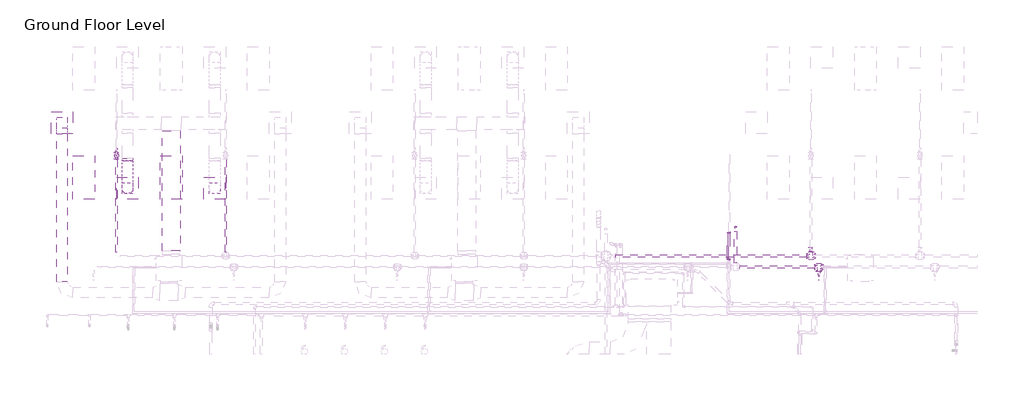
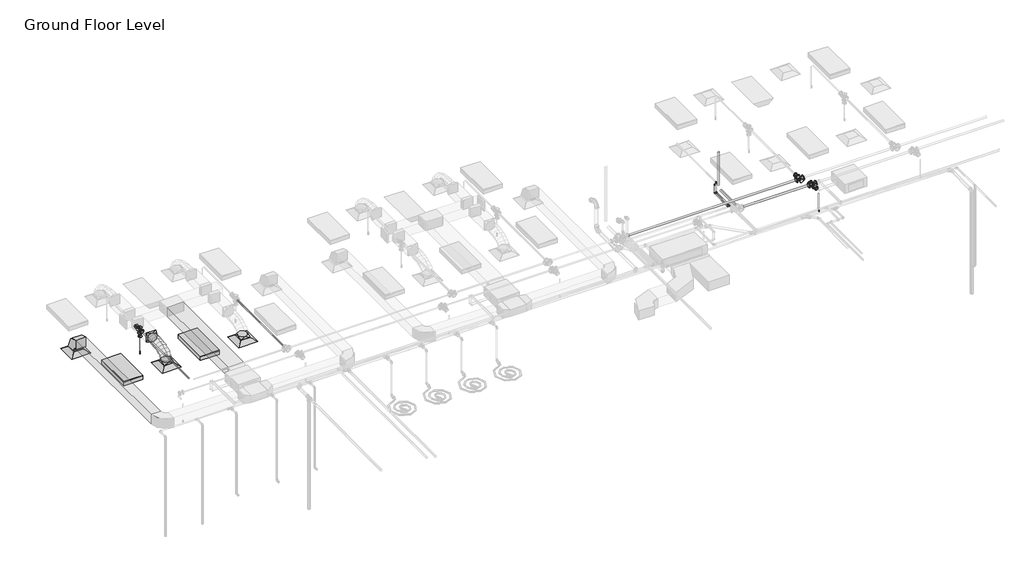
# One storey, part 54 of 73: 14 pipe fittings, 14 pipe segments, 4 duct fittings, 4 duct segments, 3 air terminals, 2 fire suppression terminals, 2 light fixtures.
"""IFC4 building model written with IfcOpenShell, lengths in millimetres."""

from ifc_helpers import new_model, si_unit, point, frame, frame_2d, origin, place, context, project, spatial, polyline, circle_curve, ellipse_curve, trimmed, segment, composite_curve, outline, extrude, transform, mapped, element, save
from ifc_brep_helpers import plane_surface, cylinder_surface, advanced_brep
from components import m_return_diffuser_600_x_600_face_300_x_300_connection_ff221211, m_rectangular_elbow_radius_1_w_618da153, m_rectangular_to_round_transition_angle_45_degree_641efff0, m_sprinkler_dry_pendent_hosted_15_mm_dry_pendent_9bda8e11, m_sprinkler_pendent_15_mm_pendent_06fcbd8e, m_troffer_light_parabolic_rectangular1_0600x1200mm_4_lamp_86473d4a, m_elbow_generic_standard_738589b0, m_elbow_generic_standard_463efa77, m_reducer_flanged_cs_class_150_standard_d42b2106, m_reducer_flanged_cs_class_150_standard_a7631c35, m_reducer_flanged_cs_class_150_standard_55262df0, m_tee_round_base_flanged_cs_class_150_standard_dd767e04, m_tee_round_base_flanged_cs_class_150_standard_7e5987a1

model = new_model("IFC4")

# Units and contexts
model_context = context("Model", 3, world=origin())
ifc_project = project(units=[si_unit("LENGTHUNIT", "METRE", prefix="MILLI")], contexts=[model_context])

# Site, building, storey
site = spatial("IfcSite", under=ifc_project)
building = spatial("IfcBuilding", under=site)
storey = spatial("IfcBuildingStorey", under=building, Name="Ground Floor Level", Elevation=900.0)

# Air terminals
placement = place(None, origin())
m_return_diffuser_600_x_600_face_300_x_300_connection_shape = m_return_diffuser_600_x_600_face_300_x_300_connection_ff221211(model_context)
element("IfcAirTerminal", 1, ObjectType="M_Return Diffuser : 600 x 600 Face 300 x 300 Connection", at=placement, inside=storey, context=model_context, shape_type="MappedRepresentation", body=[
    mapped(m_return_diffuser_600_x_600_face_300_x_300_connection_shape, transform((-20937.2327605, 18735.2153534, 3650.0), x_axis=(1.0, 0.0, 0.0), y_axis=(0.0, 1.0, 0.0), z_axis=(0.0, 0.0, 1.0))),
])
element("IfcAirTerminal", 2, ObjectType="M_Supply Diffuser : 600 x 600 Face 300 x 300 Connection", at=placement, inside=storey, context=model_context, shape_type="MappedRepresentation", body=[
    mapped(m_return_diffuser_600_x_600_face_300_x_300_connection_shape, transform((-19137.2327605, 16935.2153534, 3650.0), x_axis=(1.0, 0.0, 0.0), y_axis=(0.0, 1.0, 0.0), z_axis=(0.0, 0.0, 1.0))),
])
element("IfcAirTerminal", 3, ObjectType="M_Supply Diffuser : 600 x 600 Face 300 x 300 Connection", at=placement, inside=storey, context=model_context, shape_type="MappedRepresentation", body=[
    mapped(m_return_diffuser_600_x_600_face_300_x_300_connection_shape, transform((-16737.2327605, 16935.2153534, 3650.0), x_axis=(1.0, 0.0, 0.0), y_axis=(0.0, 1.0, 0.0), z_axis=(0.0, 0.0, 1.0))),
])

# Duct fittings
m_rectangular_elbow_radius_1_w_shape = m_rectangular_elbow_radius_1_w_618da153(model_context)
element("IfcDuctFitting", 4, ObjectType="M_Rectangular Elbow - Radius : 1 W", at=placement, inside=storey, context=model_context, shape_type="MappedRepresentation", body=[
    mapped(m_rectangular_elbow_radius_1_w_shape, transform((-20937.2327605, 18735.2153534, 4075.2881511), x_axis=(0.0, 0.0, 1.0), y_axis=(0.0, -1.0, 0.0), z_axis=(1.0, 0.0, 0.0))),
])
m_rectangular_to_round_transition_angle_45_degree_shape = m_rectangular_to_round_transition_angle_45_degree_641efff0(model_context)
element("IfcDuctFitting", 5, ObjectType="M_Rectangular to Round Transition - Angle : 45 Degree", at=placement, inside=storey, context=model_context, shape_type="MappedRepresentation", body=[
    mapped(m_rectangular_to_round_transition_angle_45_degree_shape, transform((-16737.2327605, 16935.2153534, 3751.6), x_axis=(0.0, 0.0, 1.0), y_axis=(-1.0, 0.0, 0.0), z_axis=(0.0, -1.0, 0.0))),
])
element("IfcDuctFitting", 6, ObjectType="M_Rectangular to Round Transition - Angle : 45 Degree", at=placement, inside=storey, context=model_context, shape_type="MappedRepresentation", body=[
    mapped(m_rectangular_to_round_transition_angle_45_degree_shape, transform((-19137.2327605, 16935.2153534, 3751.6), x_axis=(0.0, 0.0, 1.0), y_axis=(-1.0, 0.0, 0.0), z_axis=(0.0, -1.0, 0.0))),
])
element("IfcDuctFitting", 7, ObjectType="M_Rectangular to Round Transition - Angle : 45 Degree", at=placement, inside=storey, context=model_context, shape_type="MappedRepresentation", body=[
    mapped(m_rectangular_to_round_transition_angle_45_degree_shape, transform((-19137.2327605, 17762.5518775, 4099.9994072), x_axis=(0.0, -1.0, 0.0), y_axis=(1.0, 0.0, 0.0), z_axis=(0.0, 0.0, 1.0))),
])

# Duct segments
element("IfcDuctSegment", 8, ObjectType="Flex - Round", at=placement, inside=storey, context=model_context, shape_type="AdvancedBrep", body=[
    advanced_brep(
    [(-18987.2327605, 16935.2153534, 3826.6), (-19137.2327605, 16785.2153534, 3826.6), (-19287.2327605, 16935.2153534, 3826.6), (-19137.2327605, 17085.2153534, 3826.6), (-18987.2327605, 16935.2153534, 3857.9377363), (-19137.2327605, 16785.2153534, 3883.580989), (-19287.2327605, 16935.2153534, 3857.9377363), (-19137.2327605, 17085.2153534, 3832.2944836), (-18987.2327605, 16952.2313024, 3906.2505836), (-19137.2327605, 16818.4933608, 3978.0661859), (-19287.2327605, 16952.2313024, 3906.2505836), (-19137.2327605, 17085.969244, 3834.4349814), (-18987.2327605, 16999.4152275, 3968.711286), (-19137.2327605, 16895.2094297, 4079.6206779), (-19287.2327605, 16999.4152275, 3968.711286), (-19137.2327605, 17103.6210253, 3857.8018941), (-18987.2327605, 17070.9712459, 4016.0699627), (-19137.2327605, 17002.0373501, 4150.3237308), (-19287.2327605, 17070.9712459, 4016.0699627), (-19137.2327605, 17139.9051416, 3881.8161947), (-18987.2327605, 17161.1034747, 4050.4144697), (-19137.2327605, 17117.5428863, 4194.3366298), (-19287.2327605, 17161.1034747, 4050.4144697), (-19137.2327605, 17204.6640631, 3906.4923095), (-18987.2327605, 17264.0160312, 4073.8326625), (-19137.2327605, 17237.4552729, 4221.6232067), (-19287.2327605, 17264.0160312, 4073.8326625), (-19137.2327605, 17290.5767896, 3926.0421182), (-18987.2327605, 17373.9130326, 4088.4123969), (-19137.2327605, 17358.7622742, 4237.7166746), (-19287.2327605, 17373.9130326, 4088.4123969), (-19137.2327605, 17389.0637909, 3939.1081192), (-18987.2327605, 17484.9985959, 4096.2415287), (-19137.2327605, 17477.4933798, 4246.0846519), (-19287.2327605, 17484.9985959, 4096.2415287), (-19137.2327605, 17492.5038121, 3946.3984054), (-18987.2327605, 17591.4768385, 4099.4079135), (-19137.2327605, 17588.7854112, 4249.3941863), (-19287.2327605, 17591.4768385, 4099.4079135), (-19137.2327605, 17594.1682658, 3949.4216408), (-18987.2327605, 17687.5518775, 4099.9994072), (-19137.2327605, 17688.475347, 3950.0022499), (-19287.2327605, 17687.5518775, 4099.9994072), (-19137.2327605, 17686.6284079, 4249.9965645)],
    [
        (0, 1, circle_curve(frame((-19137.2327605, 16935.2153534, 3826.6), z_axis=(0.0, 0.0, -1.0), x_axis=(1.0, 0.0, 0.0)), 150.0)),
        (1, 2, circle_curve(frame((-19137.2327605, 16935.2153534, 3826.6), z_axis=(0.0, 0.0, -1.0), x_axis=(1.0, 0.0, 0.0)), 150.0)),
        (2, 3, circle_curve(frame((-19137.2327605, 16935.2153534, 3826.6), z_axis=(0.0, 0.0, -1.0), x_axis=(1.0, 0.0, 0.0)), 150.0)),
        (3, 0, circle_curve(frame((-19137.2327605, 16935.2153534, 3826.6), z_axis=(0.0, 0.0, -1.0), x_axis=(1.0, 0.0, 0.0)), 150.0)),
        (0, 4),
        (4, 5, ellipse_curve(frame((-19137.2327605, 16935.2153534, 3857.9377363), z_axis=(0.0, -0.1685103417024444, -0.9856998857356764), x_axis=(0.0, 0.9856998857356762, -0.1685103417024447)), 152.1761361, 150.0)),
        (5, 1),
        (5, 6, ellipse_curve(frame((-19137.2327605, 16935.2153534, 3857.9377363), z_axis=(0.0, -0.1685103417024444, -0.9856998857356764), x_axis=(0.0, 0.9856998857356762, -0.1685103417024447)), 152.1761361, 150.0)),
        (6, 2),
        (6, 7, ellipse_curve(frame((-19137.2327605, 16935.2153534, 3857.9377363), z_axis=(0.0, -0.1685103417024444, -0.9856998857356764), x_axis=(0.0, 0.9856998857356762, -0.1685103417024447)), 152.1761361, 150.0)),
        (7, 3),
        (7, 4, ellipse_curve(frame((-19137.2327605, 16935.2153534, 3857.9377363), z_axis=(0.0, -0.1685103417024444, -0.9856998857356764), x_axis=(0.0, 0.9856998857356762, -0.1685103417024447)), 152.1761361, 150.0)),
        (4, 8),
        (8, 9, ellipse_curve(frame((-19137.2327605, 16952.2313024, 3906.2505836), z_axis=(0.0, -0.4730927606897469, -0.8810126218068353), x_axis=(0.0, 0.881012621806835, -0.4730927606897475)), 151.8002561, 150.0)),
        (9, 5),
        (9, 10, ellipse_curve(frame((-19137.2327605, 16952.2313024, 3906.2505836), z_axis=(0.0, -0.4730927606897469, -0.8810126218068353), x_axis=(0.0, 0.881012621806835, -0.4730927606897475)), 151.8002561, 150.0)),
        (10, 6),
        (10, 11, ellipse_curve(frame((-19137.2327605, 16952.2313024, 3906.2505836), z_axis=(0.0, -0.4730927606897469, -0.8810126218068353), x_axis=(0.0, 0.881012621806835, -0.4730927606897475)), 151.8002561, 150.0)),
        (11, 7),
        (11, 8, ellipse_curve(frame((-19137.2327605, 16952.2313024, 3906.2505836), z_axis=(0.0, -0.4730927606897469, -0.8810126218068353), x_axis=(0.0, 0.881012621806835, -0.4730927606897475)), 151.8002561, 150.0)),
        (8, 12),
        (12, 13, ellipse_curve(frame((-19137.2327605, 16999.4152275, 3968.711286), z_axis=(0.0, -0.7287884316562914, -0.6847389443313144), x_axis=(0.0, 0.6847389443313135, -0.7287884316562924)), 152.1832498, 150.0)),
        (13, 9),
        (13, 14, ellipse_curve(frame((-19137.2327605, 16999.4152275, 3968.711286), z_axis=(0.0, -0.7287884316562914, -0.6847389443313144), x_axis=(0.0, 0.6847389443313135, -0.7287884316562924)), 152.1832498, 150.0)),
        (14, 10),
        (14, 15, ellipse_curve(frame((-19137.2327605, 16999.4152275, 3968.711286), z_axis=(0.0, -0.7287884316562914, -0.6847389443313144), x_axis=(0.0, 0.6847389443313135, -0.7287884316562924)), 152.1832498, 150.0)),
        (15, 11),
        (15, 12, ellipse_curve(frame((-19137.2327605, 16999.4152275, 3968.711286), z_axis=(0.0, -0.7287884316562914, -0.6847389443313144), x_axis=(0.0, 0.6847389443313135, -0.7287884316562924)), 152.1832498, 150.0)),
        (12, 16),
        (16, 17, ellipse_curve(frame((-19137.2327605, 17070.9712459, 4016.0699627), z_axis=(0.0, -0.8895864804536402, -0.45676678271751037), x_axis=(0.0, 0.45676678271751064, -0.88958648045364)), 150.9170508, 150.0)),
        (17, 13),
        (17, 18, ellipse_curve(frame((-19137.2327605, 17070.9712459, 4016.0699627), z_axis=(0.0, -0.8895864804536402, -0.45676678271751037), x_axis=(0.0, 0.45676678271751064, -0.88958648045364)), 150.9170508, 150.0)),
        (18, 14),
        (18, 19, ellipse_curve(frame((-19137.2327605, 17070.9712459, 4016.0699627), z_axis=(0.0, -0.8895864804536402, -0.45676678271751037), x_axis=(0.0, 0.45676678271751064, -0.88958648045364)), 150.9170508, 150.0)),
        (19, 15),
        (19, 16, ellipse_curve(frame((-19137.2327605, 17070.9712459, 4016.0699627), z_axis=(0.0, -0.8895864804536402, -0.45676678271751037), x_axis=(0.0, 0.45676678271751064, -0.88958648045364)), 150.9170508, 150.0)),
        (16, 20),
        (20, 21, ellipse_curve(frame((-19137.2327605, 17161.1034747, 4050.4144697), z_axis=(0.0, -0.9571206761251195, -0.2896895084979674), x_axis=(0.0, 0.28968950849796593, -0.9571206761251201)), 150.3699207, 150.0)),
        (21, 17),
        (21, 22, ellipse_curve(frame((-19137.2327605, 17161.1034747, 4050.4144697), z_axis=(0.0, -0.9571206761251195, -0.2896895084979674), x_axis=(0.0, 0.28968950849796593, -0.9571206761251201)), 150.3699207, 150.0)),
        (22, 18),
        (22, 23, ellipse_curve(frame((-19137.2327605, 17161.1034747, 4050.4144697), z_axis=(0.0, -0.9571206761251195, -0.2896895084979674), x_axis=(0.0, 0.28968950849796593, -0.9571206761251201)), 150.3699207, 150.0)),
        (23, 19),
        (23, 20, ellipse_curve(frame((-19137.2327605, 17161.1034747, 4050.4144697), z_axis=(0.0, -0.9571206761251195, -0.2896895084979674), x_axis=(0.0, 0.28968950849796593, -0.9571206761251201)), 150.3699207, 150.0)),
        (20, 24),
        (24, 25, ellipse_curve(frame((-19137.2327605, 17264.0160312, 4073.8326625), z_axis=(0.0, -0.984231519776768, -0.17688503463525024), x_axis=(0.0, 0.17688503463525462, -0.984231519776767)), 150.1583126, 150.0)),
        (25, 21),
        (25, 26, ellipse_curve(frame((-19137.2327605, 17264.0160312, 4073.8326625), z_axis=(0.0, -0.984231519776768, -0.17688503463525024), x_axis=(0.0, 0.17688503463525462, -0.984231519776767)), 150.1583126, 150.0)),
        (26, 22),
        (26, 27, ellipse_curve(frame((-19137.2327605, 17264.0160312, 4073.8326625), z_axis=(0.0, -0.984231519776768, -0.17688503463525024), x_axis=(0.0, 0.17688503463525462, -0.984231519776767)), 150.1583126, 150.0)),
        (27, 23),
        (27, 24, ellipse_curve(frame((-19137.2327605, 17264.0160312, 4073.8326625), z_axis=(0.0, -0.984231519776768, -0.17688503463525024), x_axis=(0.0, 0.17688503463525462, -0.984231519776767)), 150.1583126, 150.0)),
        (24, 28),
        (28, 29, ellipse_curve(frame((-19137.2327605, 17373.9130326, 4088.4123969), z_axis=(0.0, -0.9948907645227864, -0.1009572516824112), x_axis=(0.0, 0.10095725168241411, -0.9948907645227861)), 150.0710259, 150.0)),
        (29, 25),
        (29, 30, ellipse_curve(frame((-19137.2327605, 17373.9130326, 4088.4123969), z_axis=(0.0, -0.9948907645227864, -0.1009572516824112), x_axis=(0.0, 0.10095725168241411, -0.9948907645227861)), 150.0710259, 150.0)),
        (30, 26),
        (30, 31, ellipse_curve(frame((-19137.2327605, 17373.9130326, 4088.4123969), z_axis=(0.0, -0.9948907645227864, -0.1009572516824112), x_axis=(0.0, 0.10095725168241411, -0.9948907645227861)), 150.0710259, 150.0)),
        (31, 27),
        (31, 28, ellipse_curve(frame((-19137.2327605, 17373.9130326, 4088.4123969), z_axis=(0.0, -0.9948907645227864, -0.1009572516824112), x_axis=(0.0, 0.10095725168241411, -0.9948907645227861)), 150.0710259, 150.0)),
        (28, 32),
        (32, 33, ellipse_curve(frame((-19137.2327605, 17484.9985959, 4096.2415287), z_axis=(0.0, -0.9987479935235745, -0.05002444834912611), x_axis=(0.0, 0.050024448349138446, -0.9987479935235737)), 150.030963, 150.0)),
        (33, 29),
        (33, 34, ellipse_curve(frame((-19137.2327605, 17484.9985959, 4096.2415287), z_axis=(0.0, -0.9987479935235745, -0.05002444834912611), x_axis=(0.0, 0.050024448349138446, -0.9987479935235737)), 150.030963, 150.0)),
        (34, 30),
        (34, 35, ellipse_curve(frame((-19137.2327605, 17484.9985959, 4096.2415287), z_axis=(0.0, -0.9987479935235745, -0.05002444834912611), x_axis=(0.0, 0.050024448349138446, -0.9987479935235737)), 150.030963, 150.0)),
        (35, 31),
        (35, 32, ellipse_curve(frame((-19137.2327605, 17484.9985959, 4096.2415287), z_axis=(0.0, -0.9987479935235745, -0.05002444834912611), x_axis=(0.0, 0.050024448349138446, -0.9987479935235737)), 150.030963, 150.0)),
        (32, 36),
        (36, 37, ellipse_curve(frame((-19137.2327605, 17591.4768385, 4099.4079135), z_axis=(0.0, -0.9998390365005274, -0.017941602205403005), x_axis=(0.0, 0.017941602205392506, -0.9998390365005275)), 150.0104189, 150.0)),
        (37, 33),
        (37, 38, ellipse_curve(frame((-19137.2327605, 17591.4768385, 4099.4079135), z_axis=(0.0, -0.9998390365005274, -0.017941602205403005), x_axis=(0.0, 0.017941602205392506, -0.9998390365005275)), 150.0104189, 150.0)),
        (38, 34),
        (38, 39, ellipse_curve(frame((-19137.2327605, 17591.4768385, 4099.4079135), z_axis=(0.0, -0.9998390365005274, -0.017941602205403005), x_axis=(0.0, 0.017941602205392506, -0.9998390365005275)), 150.0104189, 150.0)),
        (39, 35),
        (39, 36, ellipse_curve(frame((-19137.2327605, 17591.4768385, 4099.4079135), z_axis=(0.0, -0.9998390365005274, -0.017941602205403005), x_axis=(0.0, 0.017941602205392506, -0.9998390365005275)), 150.0104189, 150.0)),
        (40, 41, circle_curve(frame((-19137.2327605, 17687.5518775, 4099.9994072), z_axis=(0.0, 0.9999810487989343, 0.006156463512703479), x_axis=(1.0, 0.0, 0.0)), 150.0)),
        (41, 42, circle_curve(frame((-19137.2327605, 17687.5518775, 4099.9994072), z_axis=(0.0, 0.9999810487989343, 0.006156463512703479), x_axis=(1.0, 0.0, 0.0)), 150.0)),
        (42, 43, circle_curve(frame((-19137.2327605, 17687.5518775, 4099.9994072), z_axis=(0.0, 0.9999810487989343, 0.006156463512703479), x_axis=(1.0, 0.0, 0.0)), 150.0)),
        (43, 40, circle_curve(frame((-19137.2327605, 17687.5518775, 4099.9994072), z_axis=(0.0, 0.9999810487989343, 0.006156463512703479), x_axis=(1.0, 0.0, 0.0)), 150.0)),
        (36, 40),
        (43, 37),
        (42, 38),
        (41, 39),
    ],
    [
        plane_surface(frame((-19137.2327605, 16785.2153534, 3826.6), z_axis=(0.0, 0.0, -1.0), x_axis=(1.0, 0.0, 0.0))),
        cylinder_surface(frame((-19137.2327605, 16935.2153534, 3826.6), z_axis=(0.0, 0.0, -1.0), x_axis=(1.0, 0.0, 0.0)), 150.0),
        cylinder_surface(frame((-19137.2327605, 16935.2153534, 3857.9377363), z_axis=(0.0, -0.33220124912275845, -0.9432085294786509), x_axis=(1.0, 0.0, 0.0)), 150.0),
        cylinder_surface(frame((-19137.2327605, 16952.2313024, 3906.2505836), z_axis=(0.0, -0.6027631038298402, -0.7979201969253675), x_axis=(1.0, 0.0, 0.0)), 150.0),
        cylinder_surface(frame((-19137.2327605, 16999.4152275, 3968.711286), z_axis=(0.0, -0.833903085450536, -0.5519109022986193), x_axis=(1.0, 0.0, 0.0)), 150.0),
        cylinder_surface(frame((-19137.2327605, 17070.9712459, 4016.0699627), z_axis=(0.0, -0.9344586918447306, -0.3560715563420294), x_axis=(1.0, 0.0, 0.0)), 150.0),
        cylinder_surface(frame((-19137.2327605, 17161.1034747, 4050.4144697), z_axis=(0.0, -0.9750734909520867, -0.22188214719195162), x_axis=(1.0, 0.0, 0.0)), 150.0),
        cylinder_surface(frame((-19137.2327605, 17264.0160312, 4073.8326625), z_axis=(0.0, -0.9913141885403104, -0.13151494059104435), x_axis=(1.0, 0.0, 0.0)), 150.0),
        cylinder_surface(frame((-19137.2327605, 17373.9130326, 4088.4123969), z_axis=(0.0, -0.9975256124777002, -0.07030400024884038), x_axis=(1.0, 0.0, 0.0)), 150.0),
        cylinder_surface(frame((-19137.2327605, 17484.9985959, 4096.2415287), z_axis=(0.0, -0.9995581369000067, -0.029724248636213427), x_axis=(1.0, 0.0, 0.0)), 150.0),
        plane_surface(frame((-19137.2327605, 17686.6284079, 4249.9965645), z_axis=(0.0, 0.9999810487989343, 0.006156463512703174), x_axis=(1.0, 0.0, 0.0))),
        cylinder_surface(frame((-19137.2327605, 17591.4768385, 4099.4079135), z_axis=(0.0, -0.9999810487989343, -0.006156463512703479), x_axis=(1.0, 0.0, 0.0)), 150.0),
    ],
    [
        (0, [[1, 2, 3, 4]]),
        (1, [[-1, 5, 6, 7]]),
        (1, [[-2, -7, 8, 9]]),
        (1, [[-3, -9, 10, 11]]),
        (1, [[-4, -11, 12, -5]]),
        (2, [[-6, 13, 14, 15]]),
        (2, [[-8, -15, 16, 17]]),
        (2, [[-10, -17, 18, 19]]),
        (2, [[-12, -19, 20, -13]]),
        (3, [[-14, 21, 22, 23]]),
        (3, [[-16, -23, 24, 25]]),
        (3, [[-18, -25, 26, 27]]),
        (3, [[-20, -27, 28, -21]]),
        (4, [[-22, 29, 30, 31]]),
        (4, [[-24, -31, 32, 33]]),
        (4, [[-26, -33, 34, 35]]),
        (4, [[-28, -35, 36, -29]]),
        (5, [[-30, 37, 38, 39]]),
        (5, [[-32, -39, 40, 41]]),
        (5, [[-34, -41, 42, 43]]),
        (5, [[-36, -43, 44, -37]]),
        (6, [[-38, 45, 46, 47]]),
        (6, [[-40, -47, 48, 49]]),
        (6, [[-42, -49, 50, 51]]),
        (6, [[-44, -51, 52, -45]]),
        (7, [[-46, 53, 54, 55]]),
        (7, [[-48, -55, 56, 57]]),
        (7, [[-50, -57, 58, 59]]),
        (7, [[-52, -59, 60, -53]]),
        (8, [[-54, 61, 62, 63]]),
        (8, [[-56, -63, 64, 65]]),
        (8, [[-58, -65, 66, 67]]),
        (8, [[-60, -67, 68, -61]]),
        (9, [[-62, 69, 70, 71]]),
        (9, [[-64, -71, 72, 73]]),
        (9, [[-66, -73, 74, 75]]),
        (9, [[-68, -75, 76, -69]]),
        (10, [[77, 78, 79, 80]]),
        (11, [[-70, 81, -80, 82]]),
        (11, [[-72, -82, -79, 83]]),
        (11, [[-74, -83, -78, 84]]),
        (11, [[-76, -84, -77, -81]]),
    ],
),
])
element("IfcDuctSegment", 9, ObjectType="Radius Elbows / Taps", at=placement, inside=storey, context=model_context, shape_type="SweptSolid", body=[
    extrude(outline(polyline([(-17683.7327605, 15224.0945822), (-18183.7327605, 15224.0945822), (-18183.7327605, 18524.6783949), (-17683.7327605, 18524.6783949), (-17683.7327605, 15224.0945822)])), frame((0.0, 0.0, 3950.0008948), z_axis=(0.0, 0.0, 1.0), x_axis=(1.0, 0.0, 0.0)), (0.0, 0.0, 1.0), 300.0),
])
element("IfcDuctSegment", 10, ObjectType="Radius Elbows / Taps", at=placement, inside=storey, context=model_context, shape_type="SweptSolid", body=[
    extrude(outline(polyline([(-20787.2327605, 14369.8153534), (-21087.2327605, 14369.8153534), (-21087.2327605, 18435.2153534), (-20787.2327605, 18435.2153534), (-20787.2327605, 14369.8153534)])), frame((0.0, 0.0, 3925.2881511), z_axis=(0.0, 0.0, 1.0), x_axis=(1.0, 0.0, 0.0)), (0.0, 0.0, 1.0), 300.0),
])
element("IfcDuctSegment", 11, ObjectType="Radius Elbows / Taps", at=placement, inside=storey, context=model_context, shape_type="SweptSolid", body=[
    extrude(outline(polyline([(-20787.2327605, 18585.2153534), (-21087.2327605, 18585.2153534), (-21087.2327605, 18885.2153534), (-20787.2327605, 18885.2153534), (-20787.2327605, 18585.2153534)])), frame((0.0, 0.0, 3751.6), z_axis=(0.0, 0.0, 1.0), x_axis=(1.0, 0.0, 0.0)), (0.0, 0.0, 1.0), 23.6881511),
])

# Fire suppression terminals
m_sprinkler_dry_pendent_hosted_15_mm_dry_pendent_shape = m_sprinkler_dry_pendent_hosted_15_mm_dry_pendent_9bda8e11(model_context)
element("IfcFireSuppressionTerminal", 12, ObjectType="M_Sprinkler - Dry - Pendent - Hosted : 15 mm Dry Pendent", at=placement, inside=storey, context=model_context, shape_type="MappedRepresentation", body=[
    mapped(m_sprinkler_dry_pendent_hosted_15_mm_dry_pendent_shape, transform((-19437.2327605, 17835.2153534, 3650.0), x_axis=(1.0, 0.0, 0.0), y_axis=(0.0, -1.0, 0.0), z_axis=(0.0, 0.0, -1.0))),
])
m_sprinkler_pendent_15_mm_pendent_shape = m_sprinkler_pendent_15_mm_pendent_06fcbd8e(model_context)
element("IfcFireSuppressionTerminal", 13, ObjectType="M_Sprinkler - Pendent : 15 mm Pendent", at=placement, inside=storey, context=model_context, shape_type="MappedRepresentation", body=[
    mapped(m_sprinkler_pendent_15_mm_pendent_shape, transform((-118.3252882, 14412.7243649, 3650.0), x_axis=(1.0, 0.0, 0.0), y_axis=(0.0, 1.0, 0.0), z_axis=(0.0, 0.0, 1.0))),
])

# Light fixtures
m_troffer_light_parabolic_rectangular1_0600x1200mm_4_lamp_shape = m_troffer_light_parabolic_rectangular1_0600x1200mm_4_lamp_86473d4a(model_context)
element("IfcLightFixture", 14, ObjectType="M_Troffer Light - Parabolic Rectangular1 : 0600x1200mm(4 Lamp) - 277V 2", at=placement, inside=storey, context=model_context, shape_type="MappedRepresentation", body=[
    mapped(m_troffer_light_parabolic_rectangular1_0600x1200mm_4_lamp_shape, transform((-20396.6986926, 17253.918855, 3650.0), x_axis=(0.0, 1.0, 0.0), y_axis=(-1.0, 0.0, 0.0), z_axis=(0.0, 0.0, 1.0))),
])
element("IfcLightFixture", 15, ObjectType="M_Troffer Light - Parabolic Rectangular1 : 0600x1200mm(4 Lamp) - 277V 2", at=placement, inside=storey, context=model_context, shape_type="MappedRepresentation", body=[
    mapped(m_troffer_light_parabolic_rectangular1_0600x1200mm_4_lamp_shape, transform((-17996.6986926, 17253.918855, 3650.0), x_axis=(0.0, 1.0, 0.0), y_axis=(-1.0, 0.0, 0.0), z_axis=(0.0, 0.0, 1.0))),
])

# Pipe fittings
m_elbow_generic_standard_shape = m_elbow_generic_standard_738589b0(model_context)
element("IfcPipeFitting", 16, ObjectType="M_Elbow - Generic : Standard", at=placement, inside=storey, context=model_context, shape_type="MappedRepresentation", body=[
    mapped(m_elbow_generic_standard_shape, transform((-2632.5317947, 15715.5935138, 4581.0887163), x_axis=(0.0, 0.0, 1.0), y_axis=(0.0, 1.0, 0.0), z_axis=(-1.0, 0.0, 0.0))),
])
element("IfcPipeFitting", 17, ObjectType="M_Elbow - Generic : Standard", at=placement, inside=storey, context=model_context, shape_type="MappedRepresentation", body=[
    mapped(m_elbow_generic_standard_shape, transform((-2632.5317947, 14990.7777393, 4365.0), x_axis=(0.0, 1.0, 0.0), y_axis=(0.0, 0.0, -1.0), z_axis=(-1.0, 0.0, 0.0))),
])
element("IfcPipeFitting", 18, ObjectType="M_Elbow - Generic : Standard", at=placement, inside=storey, context=model_context, shape_type="MappedRepresentation", body=[
    mapped(m_elbow_generic_standard_shape, transform((-2632.5317947, 15715.5935138, 4300.0), x_axis=(0.0, 0.0, -1.0), y_axis=(0.0, -1.0, 0.0), z_axis=(-1.0, 0.0, 0.0))),
])
element("IfcPipeFitting", 19, ObjectType="M_Elbow - Generic : Standard", at=placement, inside=storey, context=model_context, shape_type="MappedRepresentation", body=[
    mapped(m_elbow_generic_standard_shape, transform((-2632.5317947, 14990.7777393, 4300.0), x_axis=(0.0, 0.0, -1.0), y_axis=(0.0, 1.0, 0.0), z_axis=(1.0, 0.0, 0.0))),
])
m_elbow_generic_standard_2_shape = m_elbow_generic_standard_463efa77(model_context)
element("IfcPipeFitting", 20, ObjectType="M_Elbow - Generic : Standard", at=placement, inside=storey, context=model_context, shape_type="MappedRepresentation", body=[
    mapped(m_elbow_generic_standard_2_shape, transform((-2579.6952605, 15716.2153534, 4634.3568617), x_axis=(0.0, 0.0, 1.0), y_axis=(0.0, 1.0, 0.0), z_axis=(-1.0, 0.0, 0.0))),
])
element("IfcPipeFitting", 21, ObjectType="M_Elbow - Generic : Standard", at=placement, inside=storey, context=model_context, shape_type="MappedRepresentation", body=[
    mapped(m_elbow_generic_standard_2_shape, transform((-2579.6952605, 15716.2153534, 4300.0), x_axis=(0.0, 0.0, -1.0), y_axis=(0.0, -1.0, 0.0), z_axis=(-1.0, 0.0, 0.0))),
])
element("IfcPipeFitting", 22, ObjectType="M_Elbow - Generic : Standard", at=placement, inside=storey, context=model_context, shape_type="MappedRepresentation", body=[
    mapped(m_elbow_generic_standard_2_shape, transform((-2579.6952605, 14974.394156, 4300.0), x_axis=(0.0, 0.0, -1.0), y_axis=(0.0, 1.0, 0.0), z_axis=(1.0, 0.0, 0.0))),
])
m_reducer_flanged_cs_class_150_standard_shape = m_reducer_flanged_cs_class_150_standard_d42b2106(model_context)
element("IfcPipeFitting", 23, ObjectType="M_Reducer - Flanged - CS - Class 150 : Standard", at=placement, inside=storey, context=model_context, shape_type="MappedRepresentation", body=[
    mapped(m_reducer_flanged_cs_class_150_standard_shape, transform((-19437.2327605, 17835.2153534, 4259.2914063), x_axis=(0.0, 0.0, -1.0), y_axis=(-1.0, 0.0, 0.0), z_axis=(0.0, 1.0, 0.0))),
])
element("IfcPipeFitting", 24, ObjectType="M_Reducer - Flanged - CS - Class 150 : Standard", at=placement, inside=storey, context=model_context, shape_type="MappedRepresentation", body=[
    mapped(m_reducer_flanged_cs_class_150_standard_shape, transform((-19437.2327605, 17935.9239471, 4360.0), x_axis=(0.0, 1.0, 0.0), y_axis=(-1.0, 0.0, 0.0), z_axis=(0.0, 0.0, 1.0))),
])
m_reducer_flanged_cs_class_150_standard_2_shape = m_reducer_flanged_cs_class_150_standard_a7631c35(model_context)
element("IfcPipeFitting", 25, ObjectType="M_Reducer - Flanged - CS - Class 150 : Standard", at=placement, inside=storey, context=model_context, shape_type="MappedRepresentation", body=[
    mapped(m_reducer_flanged_cs_class_150_standard_2_shape, transform((-337.2327605, 15187.2009828, 4360.0), x_axis=(0.0, 1.0, 0.0), y_axis=(-1.0, 0.0, 0.0), z_axis=(0.0, 0.0, 1.0))),
])
m_reducer_flanged_cs_class_150_standard_3_shape = m_reducer_flanged_cs_class_150_standard_55262df0(model_context)
element("IfcPipeFitting", 26, ObjectType="M_Reducer - Flanged - CS - Class 150 : Standard", at=placement, inside=storey, context=model_context, shape_type="MappedRepresentation", body=[
    mapped(m_reducer_flanged_cs_class_150_standard_3_shape, transform((-118.3252882, 14659.4681847, 4291.0943441), x_axis=(0.0, -1.0, 0.0), y_axis=(1.0, 0.0, 0.0), z_axis=(0.0, 0.0, 1.0))),
])
m_tee_round_base_flanged_cs_class_150_standard_shape = m_tee_round_base_flanged_cs_class_150_standard_dd767e04(model_context)
element("IfcPipeFitting", 27, ObjectType="M_Tee Round Base - Flanged - CS - Class 150 : Standard", at=placement, inside=storey, context=model_context, shape_type="MappedRepresentation", body=[
    mapped(m_tee_round_base_flanged_cs_class_150_standard_shape, transform((-118.3252882, 14773.4681847, 4291.0943441), x_axis=(-1.0, 0.0, 0.0), y_axis=(0.0, 1.0, 0.0), z_axis=(0.0, 0.0, -1.0))),
])
element("IfcPipeFitting", 28, ObjectType="M_Tee Round Base - Flanged - CS - Class 150 : Standard", at=placement, inside=storey, context=model_context, shape_type="MappedRepresentation", body=[
    mapped(m_tee_round_base_flanged_cs_class_150_standard_shape, transform((-337.2327605, 15073.2009828, 4360.0), x_axis=(-1.0, 0.0, 0.0), y_axis=(0.0, -1.0, 0.0), z_axis=(0.0, 0.0, 1.0))),
])
m_tee_round_base_flanged_cs_class_150_standard_2_shape = m_tee_round_base_flanged_cs_class_150_standard_7e5987a1(model_context)
element("IfcPipeFitting", 29, ObjectType="M_Tee Round Base - Flanged - CS - Class 150 : Standard", at=placement, inside=storey, context=model_context, shape_type="MappedRepresentation", body=[
    mapped(m_tee_round_base_flanged_cs_class_150_standard_2_shape, transform((-19437.2327605, 17835.2153534, 4360.0), x_axis=(0.0, 1.0, 0.0), y_axis=(0.0, 0.0, 1.0), z_axis=(1.0, 0.0, 0.0))),
])

# Pipe segments
element("IfcPipeSegment", 30, ObjectType="Copper", at=placement, inside=storey, context=model_context, shape_type="SweptSolid", body=[
    extrude(outline(composite_curve([segment(trimmed(circle_curve(frame_2d((4300.0, -2579.6952605)), 14.5), [point((4300.0, -2594.1952605))], [point((4285.5, -2579.6952605))], False, "CARTESIAN"), True, "CONTINUOUS"), segment(trimmed(circle_curve(frame_2d((4300.0, -2579.6952605)), 14.5), [point((4285.5, -2579.6952605))], [point((4300.0, -2565.1952605))], False, "CARTESIAN"), True, "CONTINUOUS"), segment(trimmed(circle_curve(frame_2d((4300.0, -2579.6952605)), 14.5), [point((4300.0, -2565.1952605))], [point((4314.5, -2579.6952605))], False, "CARTESIAN"), True, "CONTINUOUS"), segment(trimmed(circle_curve(frame_2d((4300.0, -2579.6952605)), 14.5), [point((4314.5, -2579.6952605))], [point((4300.0, -2594.1952605))], False, "CARTESIAN"), True, "CONTINUOUS")], self_intersect=False)), frame((0.0, 14996.619156, 0.0), z_axis=(0.0, 1.0, 0.0), x_axis=(0.0, 0.0, 1.0)), (0.0, 0.0, 1.0), 697.3711973),
])
element("IfcPipeSegment", 31, ObjectType="Copper", at=placement, inside=storey, context=model_context, shape_type="SweptSolid", body=[
    extrude(outline(composite_curve([segment(trimmed(circle_curve(frame_2d((4300.0, -2632.5317947)), 9.75), [point((4300.0, -2642.2817947))], [point((4290.25, -2632.5317947))], False, "CARTESIAN"), True, "CONTINUOUS"), segment(trimmed(circle_curve(frame_2d((4300.0, -2632.5317947)), 9.75), [point((4290.25, -2632.5317947))], [point((4300.0, -2622.7817947))], False, "CARTESIAN"), True, "CONTINUOUS"), segment(trimmed(circle_curve(frame_2d((4300.0, -2632.5317947)), 9.75), [point((4300.0, -2622.7817947))], [point((4309.75, -2632.5317947))], False, "CARTESIAN"), True, "CONTINUOUS"), segment(trimmed(circle_curve(frame_2d((4300.0, -2632.5317947)), 9.75), [point((4309.75, -2632.5317947))], [point((4300.0, -2642.2817947))], False, "CARTESIAN"), True, "CONTINUOUS")], self_intersect=False)), frame((0.0, 15008.2402393, 0.0), z_axis=(0.0, 1.0, 0.0), x_axis=(0.0, 0.0, 1.0)), (0.0, 0.0, 1.0), 689.8907745),
])
element("IfcPipeSegment", 32, ObjectType="Copper", at=placement, inside=storey, context=model_context, shape_type="SweptSolid", body=[
    extrude(outline(composite_curve([segment(trimmed(circle_curve(frame_2d((-2632.5317947, 15715.5935138)), 9.75), [point((-2642.2817947, 15715.5935138))], [point((-2632.5317947, 15725.3435138))], False, "CARTESIAN"), True, "CONTINUOUS"), segment(trimmed(circle_curve(frame_2d((-2632.5317947, 15715.5935138)), 9.75), [point((-2632.5317947, 15725.3435138))], [point((-2622.7817947, 15715.5935138))], False, "CARTESIAN"), True, "CONTINUOUS"), segment(trimmed(circle_curve(frame_2d((-2632.5317947, 15715.5935138)), 9.75), [point((-2622.7817947, 15715.5935138))], [point((-2632.5317947, 15705.8435138))], False, "CARTESIAN"), True, "CONTINUOUS"), segment(trimmed(circle_curve(frame_2d((-2632.5317947, 15715.5935138)), 9.75), [point((-2632.5317947, 15705.8435138))], [point((-2642.2817947, 15715.5935138))], False, "CARTESIAN"), True, "CONTINUOUS")], self_intersect=False)), frame((0.0, 0.0, 4317.4625), z_axis=(0.0, 0.0, 1.0), x_axis=(1.0, 0.0, 0.0)), (0.0, 0.0, 1.0), 246.1637163),
])
element("IfcPipeSegment", 33, ObjectType="Copper", at=placement, inside=storey, context=model_context, shape_type="SweptSolid", body=[
    extrude(outline(composite_curve([segment(trimmed(circle_curve(frame_2d((-2579.6952605, 15716.2153534)), 14.5), [point((-2594.1952605, 15716.2153534))], [point((-2579.6952605, 15730.7153534))], False, "CARTESIAN"), True, "CONTINUOUS"), segment(trimmed(circle_curve(frame_2d((-2579.6952605, 15716.2153534)), 14.5), [point((-2579.6952605, 15730.7153534))], [point((-2565.1952605, 15716.2153534))], False, "CARTESIAN"), True, "CONTINUOUS"), segment(trimmed(circle_curve(frame_2d((-2579.6952605, 15716.2153534)), 14.5), [point((-2565.1952605, 15716.2153534))], [point((-2579.6952605, 15701.7153534))], False, "CARTESIAN"), True, "CONTINUOUS"), segment(trimmed(circle_curve(frame_2d((-2579.6952605, 15716.2153534)), 14.5), [point((-2579.6952605, 15701.7153534))], [point((-2594.1952605, 15716.2153534))], False, "CARTESIAN"), True, "CONTINUOUS")], self_intersect=False)), frame((0.0, 0.0, 4322.225), z_axis=(0.0, 0.0, 1.0), x_axis=(1.0, 0.0, 0.0)), (0.0, 0.0, 1.0), 289.9068617),
])
element("IfcPipeSegment", 34, ObjectType="Copper", at=placement, inside=storey, context=model_context, shape_type="SweptSolid", body=[
    extrude(outline(composite_curve([segment(trimmed(circle_curve(frame_2d((-2632.5317947, 14990.7777393)), 9.75), [point((-2622.7817947, 14990.7777393))], [point((-2632.5317947, 14981.0277393))], False, "CARTESIAN"), True, "CONTINUOUS"), segment(trimmed(circle_curve(frame_2d((-2632.5317947, 14990.7777393)), 9.75), [point((-2632.5317947, 14981.0277393))], [point((-2642.2817947, 14990.7777393))], False, "CARTESIAN"), True, "CONTINUOUS"), segment(trimmed(circle_curve(frame_2d((-2632.5317947, 14990.7777393)), 9.75), [point((-2642.2817947, 14990.7777393))], [point((-2632.5317947, 15000.5277393))], False, "CARTESIAN"), True, "CONTINUOUS"), segment(trimmed(circle_curve(frame_2d((-2632.5317947, 14990.7777393)), 9.75), [point((-2632.5317947, 15000.5277393))], [point((-2622.7817947, 14990.7777393))], False, "CARTESIAN"), True, "CONTINUOUS")], self_intersect=False)), frame((0.0, 0.0, 4317.4625), z_axis=(0.0, 0.0, 1.0), x_axis=(1.0, 0.0, 0.0)), (0.0, 0.0, 1.0), 30.075),
])
element("IfcPipeSegment", 35, ObjectType="Steel flanged", at=placement, inside=storey, context=model_context, shape_type="SweptSolid", body=[
    extrude(outline(composite_curve([segment(trimmed(circle_curve(frame_2d((-118.3252882, 14412.7243649)), 10.668), [point((-128.9932882, 14412.7243649))], [point((-118.3252882, 14423.3923649))], False, "CARTESIAN"), True, "CONTINUOUS"), segment(trimmed(circle_curve(frame_2d((-118.3252882, 14412.7243649)), 10.668), [point((-118.3252882, 14423.3923649))], [point((-107.6572882, 14412.7243649))], False, "CARTESIAN"), True, "CONTINUOUS"), segment(trimmed(circle_curve(frame_2d((-118.3252882, 14412.7243649)), 10.668), [point((-107.6572882, 14412.7243649))], [point((-118.3252882, 14402.0563649))], False, "CARTESIAN"), True, "CONTINUOUS"), segment(trimmed(circle_curve(frame_2d((-118.3252882, 14412.7243649)), 10.668), [point((-118.3252882, 14402.0563649))], [point((-128.9932882, 14412.7243649))], False, "CARTESIAN"), True, "CONTINUOUS")], self_intersect=False)), frame((0.0, 0.0, 3650.0), z_axis=(0.0, 0.0, 1.0), x_axis=(1.0, 0.0, 0.0)), (0.0, 0.0, 1.0), 548.2668816),
])
element("IfcPipeSegment", 36, ObjectType="Steel flanged", at=placement, inside=storey, context=model_context, shape_type="SweptSolid", body=[
    extrude(outline(composite_curve([segment(trimmed(circle_curve(frame_2d((4291.0943441, -118.3252882)), 10.668), [point((4291.0943441, -107.6572882))], [point((4301.7623441, -118.3252882))], False, "CARTESIAN"), True, "CONTINUOUS"), segment(trimmed(circle_curve(frame_2d((4291.0943441, -118.3252882)), 10.668), [point((4301.7623441, -118.3252882))], [point((4291.0943441, -128.9932882))], False, "CARTESIAN"), True, "CONTINUOUS"), segment(trimmed(circle_curve(frame_2d((4291.0943441, -118.3252882)), 10.668), [point((4291.0943441, -128.9932882))], [point((4280.4263441, -118.3252882))], False, "CARTESIAN"), True, "CONTINUOUS"), segment(trimmed(circle_curve(frame_2d((4291.0943441, -118.3252882)), 10.668), [point((4280.4263441, -118.3252882))], [point((4291.0943441, -107.6572882))], False, "CARTESIAN"), True, "CONTINUOUS")], self_intersect=False)), frame((0.0, 14505.7329586, 0.0), z_axis=(0.0, 1.0, 0.0), x_axis=(0.0, 0.0, 1.0)), (0.0, 0.0, 1.0), 26.7352261),
])
element("IfcPipeSegment", 37, ObjectType="Steel flanged", at=placement, inside=storey, context=model_context, shape_type="SweptSolid", body=[
    extrude(outline(composite_curve([segment(trimmed(circle_curve(frame_2d((14773.4681847, 4291.0943441)), 30.1625), [point((14743.3056847, 4291.0943441))], [point((14773.4681847, 4321.2568441))], False, "CARTESIAN"), True, "CONTINUOUS"), segment(trimmed(circle_curve(frame_2d((14773.4681847, 4291.0943441)), 30.1625), [point((14773.4681847, 4321.2568441))], [point((14803.6306847, 4291.0943441))], False, "CARTESIAN"), True, "CONTINUOUS"), segment(trimmed(circle_curve(frame_2d((14773.4681847, 4291.0943441)), 30.1625), [point((14803.6306847, 4291.0943441))], [point((14773.4681847, 4260.9318441))], False, "CARTESIAN"), True, "CONTINUOUS"), segment(trimmed(circle_curve(frame_2d((14773.4681847, 4291.0943441)), 30.1625), [point((14773.4681847, 4260.9318441))], [point((14743.3056847, 4291.0943441))], False, "CARTESIAN"), True, "CONTINUOUS")], self_intersect=False)), frame((-2299.9259545, 0.0, 0.0), z_axis=(1.0, 0.0, 0.0), x_axis=(0.0, 1.0, 0.0)), (0.0, 0.0, 1.0), 2067.6006663),
])
element("IfcPipeSegment", 38, ObjectType="Steel flanged", at=placement, inside=storey, context=model_context, shape_type="SweptSolid", body=[
    extrude(outline(composite_curve([segment(trimmed(circle_curve(frame_2d((4291.0943441, -2413.9259545)), 30.1625), [point((4291.0943441, -2383.7634545))], [point((4321.2568441, -2413.9259545))], False, "CARTESIAN"), True, "CONTINUOUS"), segment(trimmed(circle_curve(frame_2d((4291.0943441, -2413.9259545)), 30.1625), [point((4321.2568441, -2413.9259545))], [point((4291.0943441, -2444.0884545))], False, "CARTESIAN"), True, "CONTINUOUS"), segment(trimmed(circle_curve(frame_2d((4291.0943441, -2413.9259545)), 30.1625), [point((4291.0943441, -2444.0884545))], [point((4260.9318441, -2413.9259545))], False, "CARTESIAN"), True, "CONTINUOUS"), segment(trimmed(circle_curve(frame_2d((4291.0943441, -2413.9259545)), 30.1625), [point((4260.9318441, -2413.9259545))], [point((4291.0943441, -2383.7634545))], False, "CARTESIAN"), True, "CONTINUOUS")], self_intersect=False)), frame((0.0, 14887.4681847, 0.0), z_axis=(0.0, 1.0, 0.0), x_axis=(0.0, 0.0, 1.0)), (0.0, 0.0, 1.0), 871.5409053),
])
element("IfcPipeSegment", 39, ObjectType="Steel flanged", at=placement, inside=storey, context=model_context, shape_type="SweptSolid", body=[
    extrude(outline(composite_curve([segment(trimmed(circle_curve(frame_2d((-2413.9259545, 15873.00909)), 30.1625), [point((-2444.0884545, 15873.00909))], [point((-2413.9259545, 15903.17159))], False, "CARTESIAN"), True, "CONTINUOUS"), segment(trimmed(circle_curve(frame_2d((-2413.9259545, 15873.00909)), 30.1625), [point((-2413.9259545, 15903.17159))], [point((-2383.7634545, 15873.00909))], False, "CARTESIAN"), True, "CONTINUOUS"), segment(trimmed(circle_curve(frame_2d((-2413.9259545, 15873.00909)), 30.1625), [point((-2383.7634545, 15873.00909))], [point((-2413.9259545, 15842.84659))], False, "CARTESIAN"), True, "CONTINUOUS"), segment(trimmed(circle_curve(frame_2d((-2413.9259545, 15873.00909)), 30.1625), [point((-2413.9259545, 15842.84659))], [point((-2444.0884545, 15873.00909))], False, "CARTESIAN"), True, "CONTINUOUS")], self_intersect=False)), frame((0.0, 0.0, 4405.2754753), z_axis=(0.0, 0.0, 1.0), x_axis=(1.0, 0.0, 0.0)), (0.0, 0.0, 1.0), 1080.7245247),
])
element("IfcPipeSegment", 40, ObjectType="Steel flanged", at=placement, inside=storey, context=model_context, shape_type="SweptSolid", body=[
    extrude(outline(composite_curve([segment(trimmed(circle_curve(frame_2d((-19437.2327605, 17835.2153534)), 10.668), [point((-19447.9007605, 17835.2153534))], [point((-19437.2327605, 17845.8833534))], False, "CARTESIAN"), True, "CONTINUOUS"), segment(trimmed(circle_curve(frame_2d((-19437.2327605, 17835.2153534)), 10.668), [point((-19437.2327605, 17845.8833534))], [point((-19426.5647605, 17835.2153534))], False, "CARTESIAN"), True, "CONTINUOUS"), segment(trimmed(circle_curve(frame_2d((-19437.2327605, 17835.2153534)), 10.668), [point((-19426.5647605, 17835.2153534))], [point((-19437.2327605, 17824.5473534))], False, "CARTESIAN"), True, "CONTINUOUS"), segment(trimmed(circle_curve(frame_2d((-19437.2327605, 17835.2153534)), 10.668), [point((-19437.2327605, 17824.5473534))], [point((-19447.9007605, 17835.2153534))], False, "CARTESIAN"), True, "CONTINUOUS")], self_intersect=False)), frame((0.0, 0.0, 3650.0), z_axis=(0.0, 0.0, 1.0), x_axis=(1.0, 0.0, 0.0)), (0.0, 0.0, 1.0), 495.2914063),
])
element("IfcPipeSegment", 41, ObjectType="Steel flanged", at=placement, inside=storey, context=model_context, shape_type="SweptSolid", body=[
    extrude(outline(composite_curve([segment(trimmed(circle_curve(frame_2d((4360.0, -19437.2327605)), 16.7005), [point((4360.0, -19453.9332605))], [point((4343.2995, -19437.2327605))], False, "CARTESIAN"), True, "CONTINUOUS"), segment(trimmed(circle_curve(frame_2d((4360.0, -19437.2327605)), 16.7005), [point((4343.2995, -19437.2327605))], [point((4360.0, -19420.5322605))], False, "CARTESIAN"), True, "CONTINUOUS"), segment(trimmed(circle_curve(frame_2d((4360.0, -19437.2327605)), 16.7005), [point((4360.0, -19420.5322605))], [point((4376.7005, -19437.2327605))], False, "CARTESIAN"), True, "CONTINUOUS"), segment(trimmed(circle_curve(frame_2d((4360.0, -19437.2327605)), 16.7005), [point((4376.7005, -19437.2327605))], [point((4360.0, -19453.9332605))], False, "CARTESIAN"), True, "CONTINUOUS")], self_intersect=False)), frame((0.0, 15173.9095765, 0.0), z_axis=(0.0, 1.0, 0.0), x_axis=(0.0, 0.0, 1.0)), (0.0, 0.0, 1.0), 2560.5971831),
])
element("IfcPipeSegment", 42, ObjectType="Steel flanged", at=placement, inside=storey, context=model_context, shape_type="SweptSolid", body=[
    extrude(outline(composite_curve([segment(trimmed(circle_curve(frame_2d((4360.0, -16437.2327605)), 16.7005), [point((4360.0, -16453.9332605))], [point((4343.2995, -16437.2327605))], False, "CARTESIAN"), True, "CONTINUOUS"), segment(trimmed(circle_curve(frame_2d((4360.0, -16437.2327605)), 16.7005), [point((4343.2995, -16437.2327605))], [point((4360.0, -16420.5322605))], False, "CARTESIAN"), True, "CONTINUOUS"), segment(trimmed(circle_curve(frame_2d((4360.0, -16437.2327605)), 16.7005), [point((4360.0, -16420.5322605))], [point((4376.7005, -16437.2327605))], False, "CARTESIAN"), True, "CONTINUOUS"), segment(trimmed(circle_curve(frame_2d((4360.0, -16437.2327605)), 16.7005), [point((4376.7005, -16437.2327605))], [point((4360.0, -16453.9332605))], False, "CARTESIAN"), True, "CONTINUOUS")], self_intersect=False)), frame((0.0, 15173.9095765, 0.0), z_axis=(0.0, 1.0, 0.0), x_axis=(0.0, 0.0, 1.0)), (0.0, 0.0, 1.0), 2560.5971831),
])
element("IfcPipeSegment", 43, ObjectType="Steel flanged", at=placement, inside=storey, context=model_context, shape_type="SweptSolid", body=[
    extrude(outline(composite_curve([segment(trimmed(circle_curve(frame_2d((15073.2009828, 4360.0)), 30.1625), [point((15043.0384828, 4360.0))], [point((15073.2009828, 4390.1625))], False, "CARTESIAN"), True, "CONTINUOUS"), segment(trimmed(circle_curve(frame_2d((15073.2009828, 4360.0)), 30.1625), [point((15073.2009828, 4390.1625))], [point((15103.3634828, 4360.0))], False, "CARTESIAN"), True, "CONTINUOUS"), segment(trimmed(circle_curve(frame_2d((15073.2009828, 4360.0)), 30.1625), [point((15103.3634828, 4360.0))], [point((15073.2009828, 4329.8375))], False, "CARTESIAN"), True, "CONTINUOUS"), segment(trimmed(circle_curve(frame_2d((15073.2009828, 4360.0)), 30.1625), [point((15073.2009828, 4329.8375))], [point((15043.0384828, 4360.0))], False, "CARTESIAN"), True, "CONTINUOUS")], self_intersect=False)), frame((-5711.130502, 0.0, 0.0), z_axis=(1.0, 0.0, 0.0), x_axis=(0.0, 1.0, 0.0)), (0.0, 0.0, 1.0), 5259.8977415),
])

save(model, "model.ifc")
